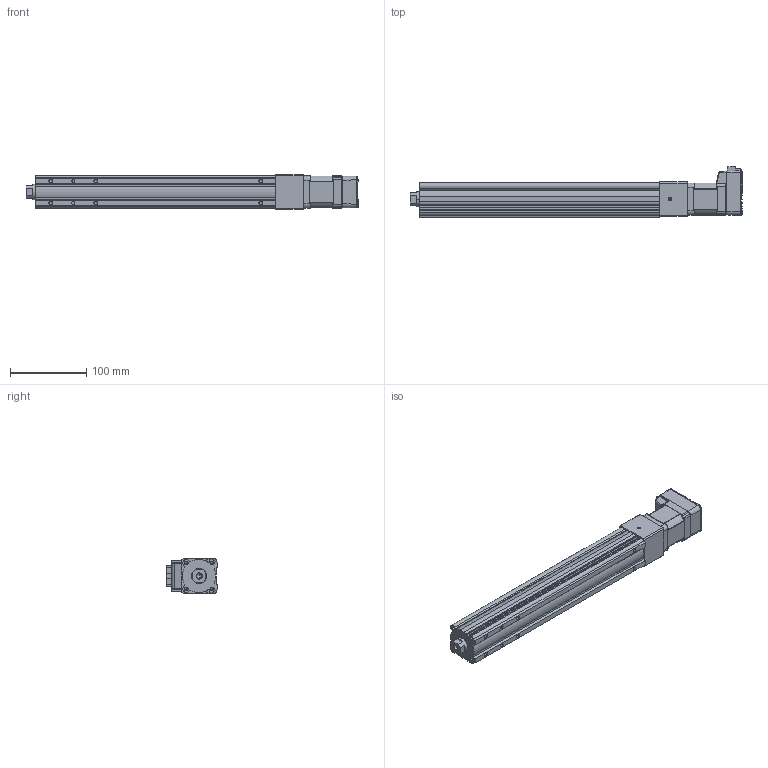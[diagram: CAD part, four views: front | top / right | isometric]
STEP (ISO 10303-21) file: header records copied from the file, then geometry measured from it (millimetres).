
FILE_DESCRIPTION (( 'STEP AP214' ), '1' );
FILE_NAME ('LEY3(+)-25DNM1□-200-17L.STEP', '2023-04-06T06:38:41', ( '' ), ( '' ), 'SwSTEP 2.0', 'SolidWorks 2019', '' );
FILE_SCHEMA (( 'AUTOMOTIVE_DESIGN' ));
Length unit declared in the file: millimetre
Products named in the file (5): LEY3(+)-25NM1?_ROD_200; LEY3(+)-25DNM1_MOTOR Flange; CM3(+)-17L50A; LEY3(+)-25NM1?_BODY_200; LEY3(+)-25DNM1□-200-17L
Assembly tree (4 placements, depth 2):
  LEY3(+)-25DNM1□-200-17L
    LEY3(+)-25NM1?_BODY_200
    LEY3(+)-25NM1?_ROD_200
    LEY3(+)-25DNM1_MOTOR Flange
    CM3(+)-17L50A
Bounding box: 434.8 x 66.75 x 45 mm (x, y, z)
Volume: 719760.6 mm3; surface area: 139213.2 mm2
Topology: 4 solids, 4 shells, 878 faces, 2218 edges, 1385 vertices
Faces by surface type: plane 460, cylinder 245, cone 94, bspline 29, torus 29, sphere 21
Full cylindrical faces by diameter (mm): 2.5 x4, 3.5 x4, 4 x1, 4.2 x6, 5 x1, 8 x1, 11 x1, 22 x1, 33 x1
Entity records: 36750 total; most frequent: CARTESIAN_POINT 6496, ORIENTED_EDGE 4284, DIRECTION 4139, EDGE_CURVE 2142, AXIS2_PLACEMENT_3D 1383, VERTEX_POINT 1375, LINE 1373, VECTOR 1373
